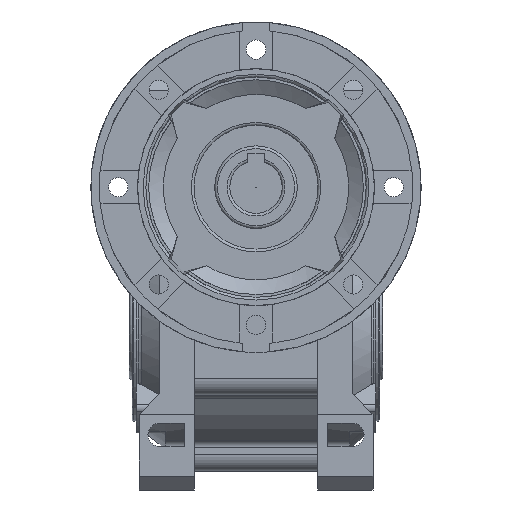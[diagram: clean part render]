
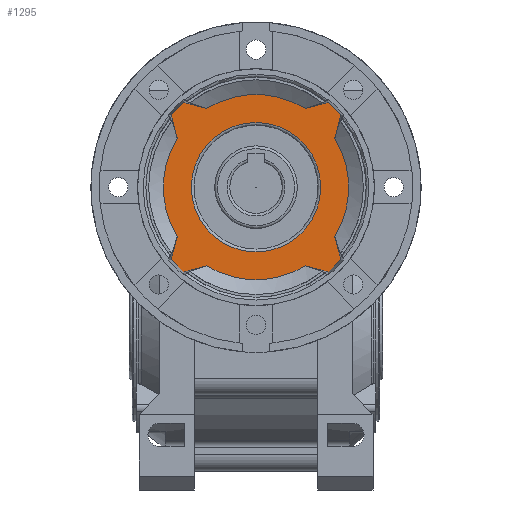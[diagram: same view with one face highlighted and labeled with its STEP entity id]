
A CAD part, front view. The second image highlights one B-rep face of the part: STEP entity #1295.
In plain terms, the highlighted planar face has unit normal (0, -1, 0).
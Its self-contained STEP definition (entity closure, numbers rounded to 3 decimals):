
#1295 = ADVANCED_FACE( '', ( #3013, #3014 ), #3015, .T. );
#3013 = FACE_BOUND( '', #5479, .T. );
#3014 = FACE_OUTER_BOUND( '', #5480, .T. );
#3015 = PLANE( '', #5481 );
#5479 = EDGE_LOOP( '', ( #9738 ) );
#5480 = EDGE_LOOP( '', ( #9739, #9740, #9741, #9742, #9743, #9744, #9745, #9746, #9747, #9748, #9749, #9750, #9751, #9752, #9753, #9754 ) );
#5481 = AXIS2_PLACEMENT_3D( '', #9755, #9756, #9757 );
#9738 = ORIENTED_EDGE( '', *, *, #13604, .T. );
#9739 = ORIENTED_EDGE( '', *, *, #14662, .F. );
#9740 = ORIENTED_EDGE( '', *, *, #14646, .T. );
#9741 = ORIENTED_EDGE( '', *, *, #14663, .T. );
#9742 = ORIENTED_EDGE( '', *, *, #14664, .T. );
#9743 = ORIENTED_EDGE( '', *, *, #14665, .F. );
#9744 = ORIENTED_EDGE( '', *, *, #14666, .T. );
#9745 = ORIENTED_EDGE( '', *, *, #14176, .T. );
#9746 = ORIENTED_EDGE( '', *, *, #14667, .T. );
#9747 = ORIENTED_EDGE( '', *, *, #14519, .F. );
#9748 = ORIENTED_EDGE( '', *, *, #14668, .T. );
#9749 = ORIENTED_EDGE( '', *, *, #14486, .T. );
#9750 = ORIENTED_EDGE( '', *, *, #14669, .T. );
#9751 = ORIENTED_EDGE( '', *, *, #14670, .F. );
#9752 = ORIENTED_EDGE( '', *, *, #14671, .T. );
#9753 = ORIENTED_EDGE( '', *, *, #14171, .T. );
#9754 = ORIENTED_EDGE( '', *, *, #14278, .T. );
#9755 = CARTESIAN_POINT( '', ( 0., -122., -15. ) );
#9756 = DIRECTION( '', ( 0., -1., 0. ) );
#9757 = DIRECTION( '', ( 0., 0., -1. ) );
#13604 = EDGE_CURVE( '', #16344, #16344, #16345, .F. );
#14171 = EDGE_CURVE( '', #17262, #17260, #17263, .T. );
#14176 = EDGE_CURVE( '', #17271, #17269, #17272, .T. );
#14278 = EDGE_CURVE( '', #17260, #17426, #17428, .F. );
#14486 = EDGE_CURVE( '', #17737, #17735, #17738, .T. );
#14519 = EDGE_CURVE( '', #17780, #17782, #17783, .T. );
#14646 = EDGE_CURVE( '', #17972, #17970, #17973, .F. );
#14662 = EDGE_CURVE( '', #17972, #17426, #17997, .T. );
#14663 = EDGE_CURVE( '', #17970, #17998, #17999, .T. );
#14664 = EDGE_CURVE( '', #17998, #18000, #18001, .F. );
#14665 = EDGE_CURVE( '', #18002, #18000, #18003, .T. );
#14666 = EDGE_CURVE( '', #18002, #17271, #18004, .F. );
#14667 = EDGE_CURVE( '', #17269, #17782, #18005, .F. );
#14668 = EDGE_CURVE( '', #17780, #17737, #18006, .F. );
#14669 = EDGE_CURVE( '', #17735, #18007, #18008, .F. );
#14670 = EDGE_CURVE( '', #18009, #18007, #18010, .T. );
#14671 = EDGE_CURVE( '', #18009, #17262, #18011, .F. );
#16344 = VERTEX_POINT( '', #20450 );
#16345 = CIRCLE( '', #20451, 23.5 );
#17260 = VERTEX_POINT( '', #22207 );
#17262 = VERTEX_POINT( '', #22212 );
#17263 = CIRCLE( '', #22213, 40.5 );
#17269 = VERTEX_POINT( '', #22222 );
#17271 = VERTEX_POINT( '', #22227 );
#17272 = CIRCLE( '', #22228, 40.5 );
#17426 = VERTEX_POINT( '', #22591 );
#17428 = LINE( '', #22596, #22597 );
#17735 = VERTEX_POINT( '', #23203 );
#17737 = VERTEX_POINT( '', #23208 );
#17738 = CIRCLE( '', #23209, 40.5 );
#17780 = VERTEX_POINT( '', #23283 );
#17782 = VERTEX_POINT( '', #23288 );
#17783 = CIRCLE( '', #23289, 33.69 );
#17970 = VERTEX_POINT( '', #23595 );
#17972 = VERTEX_POINT( '', #23600 );
#17973 = LINE( '', #23601, #23602 );
#17997 = CIRCLE( '', #23637, 33.69 );
#17998 = VERTEX_POINT( '', #23638 );
#17999 = CIRCLE( '', #23639, 40.5 );
#18000 = VERTEX_POINT( '', #23640 );
#18001 = LINE( '', #23641, #23642 );
#18002 = VERTEX_POINT( '', #23643 );
#18003 = CIRCLE( '', #23644, 33.69 );
#18004 = LINE( '', #23645, #23646 );
#18005 = LINE( '', #23647, #23648 );
#18006 = LINE( '', #23649, #23650 );
#18007 = VERTEX_POINT( '', #23651 );
#18008 = LINE( '', #23652, #23653 );
#18009 = VERTEX_POINT( '', #23654 );
#18010 = CIRCLE( '', #23655, 33.69 );
#18011 = LINE( '', #23656, #23657 );
#20450 = CARTESIAN_POINT( '', ( 0., -122., -38.5 ) );
#20451 = AXIS2_PLACEMENT_3D( '', #26226, #26227, #26228 );
#22207 = CARTESIAN_POINT( '', ( -30.845, -122., 11.246 ) );
#22212 = CARTESIAN_POINT( '', ( -26.246, -122., 15.845 ) );
#22213 = AXIS2_PLACEMENT_3D( '', #26915, #26916, #26917 );
#22222 = CARTESIAN_POINT( '', ( 30.845, -122., -41.246 ) );
#22227 = CARTESIAN_POINT( '', ( 26.246, -122., -45.845 ) );
#22228 = AXIS2_PLACEMENT_3D( '', #26921, #26922, #26923 );
#22591 = CARTESIAN_POINT( '', ( -28.588, -122., 2.825 ) );
#22596 = CARTESIAN_POINT( '', ( -22.217, -122., -20.953 ) );
#22597 = VECTOR( '', #27066, 1000. );
#23203 = CARTESIAN_POINT( '', ( 26.246, -122., 15.845 ) );
#23208 = CARTESIAN_POINT( '', ( 30.845, -122., 11.246 ) );
#23209 = AXIS2_PLACEMENT_3D( '', #27275, #27276, #27277 );
#23283 = CARTESIAN_POINT( '', ( 28.588, -122., 2.825 ) );
#23288 = CARTESIAN_POINT( '', ( 28.588, -122., -32.825 ) );
#23289 = AXIS2_PLACEMENT_3D( '', #27311, #27312, #27313 );
#23595 = CARTESIAN_POINT( '', ( -30.845, -122., -41.246 ) );
#23600 = CARTESIAN_POINT( '', ( -28.588, -122., -32.825 ) );
#23601 = CARTESIAN_POINT( '', ( -22.217, -122., -9.047 ) );
#23602 = VECTOR( '', #27470, 1000. );
#23637 = AXIS2_PLACEMENT_3D( '', #27485, #27486, #27487 );
#23638 = CARTESIAN_POINT( '', ( -26.246, -122., -45.845 ) );
#23639 = AXIS2_PLACEMENT_3D( '', #27488, #27489, #27490 );
#23640 = CARTESIAN_POINT( '', ( -17.825, -122., -43.588 ) );
#23641 = CARTESIAN_POINT( '', ( 5.953, -122., -37.217 ) );
#23642 = VECTOR( '', #27491, 1000. );
#23643 = CARTESIAN_POINT( '', ( 17.825, -122., -43.588 ) );
#23644 = AXIS2_PLACEMENT_3D( '', #27492, #27493, #27494 );
#23645 = CARTESIAN_POINT( '', ( -5.953, -122., -37.217 ) );
#23646 = VECTOR( '', #27495, 1000. );
#23647 = CARTESIAN_POINT( '', ( 22.217, -122., -9.047 ) );
#23648 = VECTOR( '', #27496, 1000. );
#23649 = CARTESIAN_POINT( '', ( 22.217, -122., -20.953 ) );
#23650 = VECTOR( '', #27497, 1000. );
#23651 = CARTESIAN_POINT( '', ( 17.825, -122., 13.588 ) );
#23652 = CARTESIAN_POINT( '', ( -5.953, -122., 7.217 ) );
#23653 = VECTOR( '', #27498, 1000. );
#23654 = CARTESIAN_POINT( '', ( -17.825, -122., 13.588 ) );
#23655 = AXIS2_PLACEMENT_3D( '', #27499, #27500, #27501 );
#23656 = CARTESIAN_POINT( '', ( 5.953, -122., 7.217 ) );
#23657 = VECTOR( '', #27502, 1000. );
#26226 = CARTESIAN_POINT( '', ( 0., -122., -15. ) );
#26227 = DIRECTION( '', ( 0., -1., 0. ) );
#26228 = DIRECTION( '', ( 0., 0., -1. ) );
#26915 = CARTESIAN_POINT( '', ( 0., -122., -15. ) );
#26916 = DIRECTION( '', ( 0., -1., 0. ) );
#26917 = DIRECTION( '', ( -1., 0., 0. ) );
#26921 = CARTESIAN_POINT( '', ( 0., -122., -15. ) );
#26922 = DIRECTION( '', ( 0., -1., 0. ) );
#26923 = DIRECTION( '', ( -1., 0., 0. ) );
#27066 = DIRECTION( '', ( -0.259, 0., 0.966 ) );
#27275 = CARTESIAN_POINT( '', ( 0., -122., -15. ) );
#27276 = DIRECTION( '', ( 0., -1., 0. ) );
#27277 = DIRECTION( '', ( -1., 0., 0. ) );
#27311 = CARTESIAN_POINT( '', ( 0., -122., -15. ) );
#27312 = DIRECTION( '', ( 0., 1., 0. ) );
#27313 = DIRECTION( '', ( 0., 0., 1. ) );
#27470 = DIRECTION( '', ( 0.259, 0., 0.966 ) );
#27485 = CARTESIAN_POINT( '', ( 0., -122., -15. ) );
#27486 = DIRECTION( '', ( 0., 1., 0. ) );
#27487 = DIRECTION( '', ( 0., 0., 1. ) );
#27488 = CARTESIAN_POINT( '', ( 0., -122., -15. ) );
#27489 = DIRECTION( '', ( 0., -1., 0. ) );
#27490 = DIRECTION( '', ( -1., 0., 0. ) );
#27491 = DIRECTION( '', ( -0.966, 0., -0.259 ) );
#27492 = CARTESIAN_POINT( '', ( 0., -122., -15. ) );
#27493 = DIRECTION( '', ( 0., 1., 0. ) );
#27494 = DIRECTION( '', ( 0., 0., 1. ) );
#27495 = DIRECTION( '', ( -0.966, 0., 0.259 ) );
#27496 = DIRECTION( '', ( 0.259, 0., -0.966 ) );
#27497 = DIRECTION( '', ( -0.259, 0., -0.966 ) );
#27498 = DIRECTION( '', ( 0.966, 0., 0.259 ) );
#27499 = CARTESIAN_POINT( '', ( 0., -122., -15. ) );
#27500 = DIRECTION( '', ( 0., 1., 0. ) );
#27501 = DIRECTION( '', ( 0., 0., 1. ) );
#27502 = DIRECTION( '', ( 0.966, 0., -0.259 ) );
